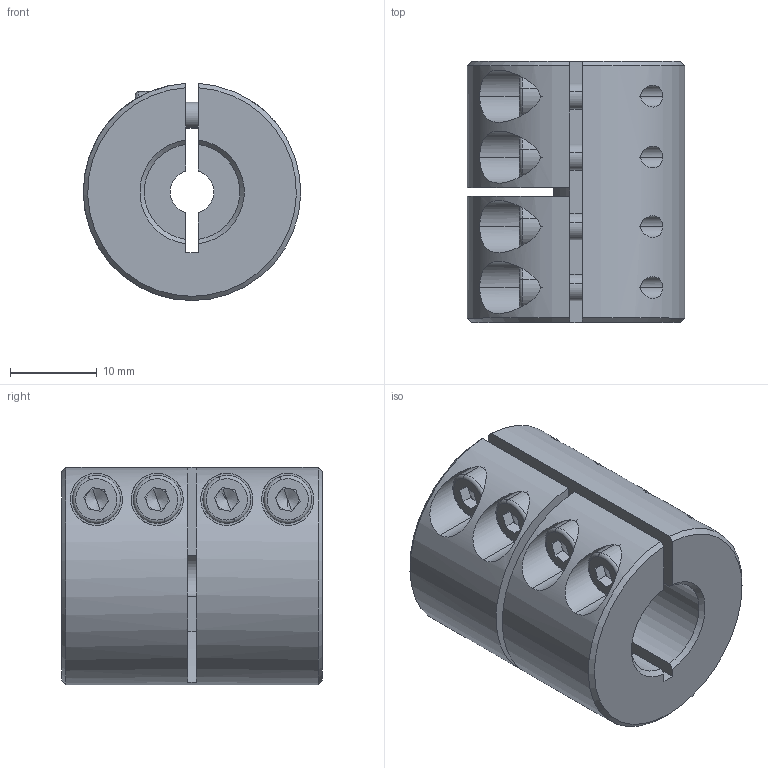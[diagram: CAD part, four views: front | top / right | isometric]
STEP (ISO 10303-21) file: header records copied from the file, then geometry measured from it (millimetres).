
FILE_DESCRIPTION (( 'STEP AP214' ), '1' );
FILE_NAME ('LL-B-D25L30-5-11½¨Ä£.STEP', '2022-07-21T03:07:50', ( '' ), ( '' ), 'SwSTEP 2.0', 'SolidWorks 2022', '' );
FILE_SCHEMA (( 'AUTOMOTIVE_DESIGN' ));
Length unit declared in the file: millimetre
Products named in the file (1): LL-B-D25L30-5-11膘耀
Bounding box: 24.99 x 30 x 24.98 mm (x, y, z)
Volume: 11890.3 mm3; surface area: 5920.4 mm2
Topology: 1 solids, 1 shells, 164 faces, 418 edges, 264 vertices
Faces by surface type: plane 83, cylinder 58, cone 15, torus 8
Entity records: 5402 total; most frequent: CARTESIAN_POINT 1363, DIRECTION 862, ORIENTED_EDGE 820, EDGE_CURVE 410, AXIS2_PLACEMENT_3D 331, VERTEX_POINT 264, VECTOR 200, LINE 200
